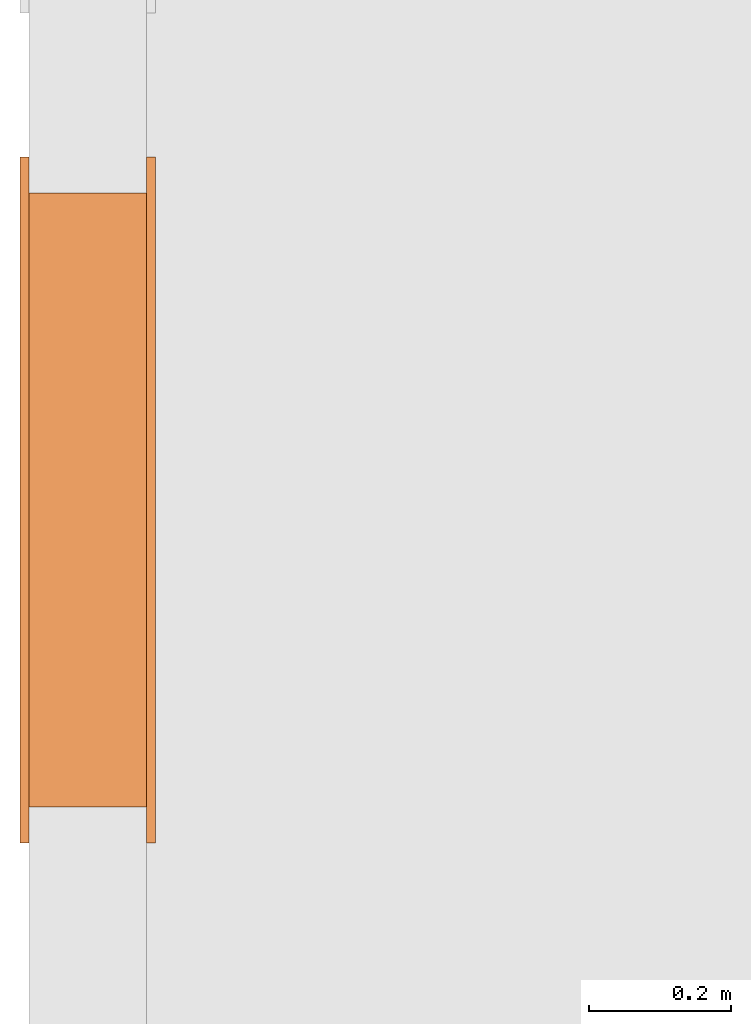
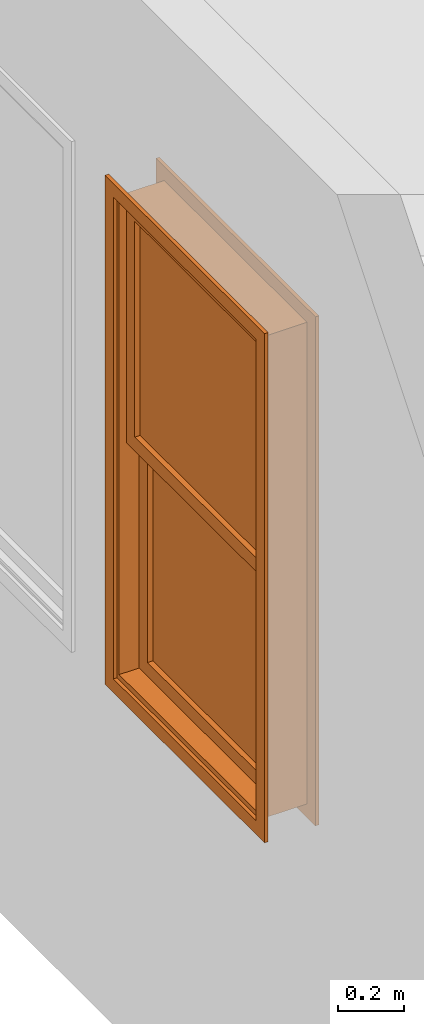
# One storey, part 59 of 103: 1 proxy.
"""IFC2X3 building model written with IfcOpenShell, lengths in inches."""

from ifc_helpers import new_model, entity, si_unit, converted_unit, derived_unit, money_unit, direction, frame, origin_with_axes, place, context, subcontext, project, spatial, faceted_brep, source, transform, mapped, type_object, element, save


model = new_model("IFC2X3")

# Units and contexts
model_context = context("Model", 3, precision=0.00039370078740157, world=origin_with_axes(), true_north=direction((0.0, 1.0)))
plan_context = context("Plan", 3, precision=0.00039370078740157, world=origin_with_axes(), true_north=direction((0.0, 1.0)))
body_context = subcontext(model_context, "Body", "Model", "MODEL_VIEW")
ifc_project = project(units=[converted_unit("LENGTHUNIT", "INCH", entity("IfcPositiveLengthMeasure", 0.0254), si_unit("LENGTHUNIT", "METRE"), dimensions=[1, 0, 0, 0, 0, 0, 0]), converted_unit("AREAUNIT", "SQUARE_FOOT", entity("IfcPositiveLengthMeasure", 0.09290304), si_unit("AREAUNIT", "SQUARE_METRE"), dimensions=[2, 0, 0, 0, 0, 0, 0]), si_unit("PLANEANGLEUNIT", "RADIAN"), si_unit("SOLIDANGLEUNIT", "STERADIAN"), money_unit("USD"), converted_unit("TIMEUNIT", "Year", entity("IfcTimeMeasure", 31557600.0), si_unit("TIMEUNIT", "SECOND"), dimensions=[0, 0, 1, 0, 0, 0, 0]), si_unit("MASSUNIT", "GRAM", prefix="KILO"), si_unit("THERMODYNAMICTEMPERATUREUNIT", "DEGREE_CELSIUS"), si_unit("LUMINOUSINTENSITYUNIT", "LUMEN"), si_unit("ENERGYUNIT", "JOULE", prefix="MEGA"), derived_unit("SPECIFICHEATCAPACITYUNIT", [(si_unit("ENERGYUNIT", "JOULE"), 1), (si_unit("MASSUNIT", "GRAM", prefix="KILO"), -1), (si_unit("THERMODYNAMICTEMPERATUREUNIT", "KELVIN"), -1)])], contexts=[model_context, plan_context])

# Site, building, storey
site_placement = place(None, origin_with_axes())
site = spatial("IfcSite", under=ifc_project, at=site_placement, Name="Site", CompositionType="ELEMENT")
building_placement = place(site_placement, origin_with_axes())
building = spatial("IfcBuilding", under=site, at=building_placement, Name="Building", CompositionType="ELEMENT")
storey_placement = place(building_placement, frame((0.0, 0.0, 127.9999999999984), z_axis=(0.0, 0.0, 1.0), x_axis=(1.0, 0.0, 0.0)))
storey = spatial("IfcBuildingStorey", under=building, at=storey_placement, Name="Second Floor", CompositionType="ELEMENT", Elevation=128.0)

# Proxy
building_element_proxy_type = type_object("IfcBuildingElementProxyType", Name="W Double Hung", PredefinedType="NOTDEFINED")
shared_shape = source(origin_with_axes(), body_context, "Body", "Brep", [
    faceted_brep([(16.99999999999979, 0.0, 0.0), (-16.99999999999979, 0.0, 0.0), (-16.99999999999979, 1.999999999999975, 0.0), (16.99999999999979, 1.999999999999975, 0.0), (16.99999999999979, 0.0, 69.99999999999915), (-16.99999999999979, 0.0, 69.99999999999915), (16.4999999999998, 0.0, 0.4999999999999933), (-16.4999999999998, 0.0, 0.4999999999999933), (-16.4999999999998, 0.0, 69.49999999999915), (16.4999999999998, 0.0, 69.49999999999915), (-16.99999999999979, 1.999999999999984, 69.99999999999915), (16.99999999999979, 1.999999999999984, 69.99999999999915), (16.4999999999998, 1.999999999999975, 0.4999999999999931), (16.4999999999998, 1.999999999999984, 69.49999999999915), (-16.4999999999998, 1.999999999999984, 69.49999999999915), (-16.4999999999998, 1.999999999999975, 0.4999999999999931)], [[[0, 1, 2, 3]], [[0, 4, 5, 1], [6, 7, 8, 9]], [[1, 5, 10, 2]], [[3, 2, 10, 11], [12, 13, 14, 15]], [[4, 0, 3, 11]], [[5, 4, 11, 10]], [[7, 6, 12, 15]], [[8, 7, 15, 14]], [[9, 8, 14, 13]], [[6, 9, 13, 12]]]),
    faceted_brep([(18.99999999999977, 2.499999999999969, -1.999999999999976), (18.99999999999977, 1.999999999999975, -1.999999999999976), (16.99999999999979, 1.999999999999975, 0.0), (16.99999999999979, 2.499999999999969, 0.0), (18.99999999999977, 2.499999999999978, 71.99999999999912), (18.99999999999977, 1.999999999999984, 71.99999999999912), (16.99999999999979, 1.999999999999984, 69.99999999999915), (16.99999999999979, 2.499999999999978, 69.99999999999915)], [[[0, 1, 2, 3]], [[4, 5, 1, 0]], [[1, 5, 6, 2]], [[3, 2, 6, 7]], [[0, 3, 7, 4]], [[7, 6, 5, 4]]]),
    faceted_brep([(-18.99999999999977, 2.499999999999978, 71.99999999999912), (-18.99999999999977, 1.999999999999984, 71.99999999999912), (-16.99999999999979, 1.999999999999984, 69.99999999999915), (-16.99999999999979, 2.499999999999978, 69.99999999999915), (-18.99999999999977, 2.499999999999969, -1.999999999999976), (-18.99999999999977, 1.999999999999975, -1.999999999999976), (-16.99999999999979, 1.999999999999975, 0.0), (-16.99999999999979, 2.499999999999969, 0.0)], [[[0, 1, 2, 3]], [[4, 5, 1, 0]], [[1, 5, 6, 2]], [[3, 2, 6, 7]], [[0, 3, 7, 4]], [[7, 6, 5, 4]]]),
    faceted_brep([(-18.99999999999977, 2.499999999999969, -1.999999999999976), (-18.99999999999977, 1.999999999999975, -1.999999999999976), (-16.99999999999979, 1.999999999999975, 0.0), (-16.99999999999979, 2.499999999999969, 0.0), (18.99999999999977, 2.499999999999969, -1.999999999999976), (18.99999999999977, 1.999999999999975, -1.999999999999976), (16.99999999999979, 1.999999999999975, 0.0), (16.99999999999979, 2.499999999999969, 0.0)], [[[0, 1, 2, 3]], [[4, 5, 1, 0]], [[1, 5, 6, 2]], [[3, 2, 6, 7]], [[0, 3, 7, 4]], [[7, 6, 5, 4]]]),
    faceted_brep([(18.99999999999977, 2.499999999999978, 71.99999999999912), (18.99999999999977, 1.999999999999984, 71.99999999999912), (16.99999999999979, 1.999999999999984, 69.99999999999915), (16.99999999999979, 2.499999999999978, 69.99999999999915), (-18.99999999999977, 2.499999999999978, 71.99999999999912), (-18.99999999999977, 1.999999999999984, 71.99999999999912), (-16.99999999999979, 1.999999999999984, 69.99999999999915), (-16.99999999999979, 2.499999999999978, 69.99999999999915)], [[[0, 1, 2, 3]], [[4, 5, 1, 0]], [[1, 5, 6, 2]], [[3, 2, 6, 7]], [[0, 3, 7, 4]], [[7, 6, 5, 4]]]),
    faceted_brep([(18.99999999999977, -4.999999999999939, -1.999999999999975), (16.99999999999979, -4.999999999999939, 0.0), (16.99999999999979, -4.499999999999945, 0.0), (18.99999999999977, -4.499999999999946, -1.999999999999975), (18.99999999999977, -4.99999999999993, 71.99999999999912), (16.99999999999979, -4.99999999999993, 69.99999999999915), (16.99999999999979, -4.499999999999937, 69.99999999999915), (18.99999999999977, -4.499999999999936, 71.99999999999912)], [[[0, 1, 2, 3]], [[0, 4, 5, 1]], [[1, 5, 6, 2]], [[3, 2, 6, 7]], [[4, 0, 3, 7]], [[5, 4, 7, 6]]]),
    faceted_brep([(-18.99999999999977, -4.99999999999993, 71.99999999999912), (-16.99999999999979, -4.99999999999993, 69.99999999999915), (-16.99999999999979, -4.499999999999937, 69.99999999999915), (-18.99999999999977, -4.499999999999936, 71.99999999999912), (-18.99999999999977, -4.999999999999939, -1.999999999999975), (-16.99999999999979, -4.999999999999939, 0.0), (-16.99999999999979, -4.499999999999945, 0.0), (-18.99999999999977, -4.499999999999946, -1.999999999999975)], [[[0, 1, 2, 3]], [[0, 4, 5, 1]], [[1, 5, 6, 2]], [[3, 2, 6, 7]], [[4, 0, 3, 7]], [[5, 4, 7, 6]]]),
    faceted_brep([(-18.99999999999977, -4.999999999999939, -1.999999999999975), (-16.99999999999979, -4.999999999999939, 0.0), (-16.99999999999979, -4.499999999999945, 0.0), (-18.99999999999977, -4.499999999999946, -1.999999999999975), (18.99999999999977, -4.999999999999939, -1.999999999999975), (16.99999999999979, -4.999999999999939, 0.0), (16.99999999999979, -4.499999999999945, 0.0), (18.99999999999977, -4.499999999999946, -1.999999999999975)], [[[0, 1, 2, 3]], [[0, 4, 5, 1]], [[1, 5, 6, 2]], [[3, 2, 6, 7]], [[4, 0, 3, 7]], [[5, 4, 7, 6]]]),
    faceted_brep([(18.99999999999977, -4.99999999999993, 71.99999999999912), (16.99999999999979, -4.99999999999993, 69.99999999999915), (16.99999999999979, -4.499999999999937, 69.99999999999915), (18.99999999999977, -4.499999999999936, 71.99999999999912), (-18.99999999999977, -4.99999999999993, 71.99999999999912), (-16.99999999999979, -4.99999999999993, 69.99999999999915), (-16.99999999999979, -4.499999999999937, 69.99999999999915), (-18.99999999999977, -4.499999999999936, 71.99999999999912)], [[[0, 1, 2, 3]], [[0, 4, 5, 1]], [[1, 5, 6, 2]], [[3, 2, 6, 7]], [[4, 0, 3, 7]], [[5, 4, 7, 6]]]),
    faceted_brep([(16.5003937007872, -4.499999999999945, 0.7539370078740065), (16.99999999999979, -4.499999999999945, 0.7539370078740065), (16.99999999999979, -4.499999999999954, 69.49606299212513), (16.5003937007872, -4.499999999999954, 69.49606299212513), (16.5003937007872, 0.0, 0.7539370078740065), (16.99999999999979, 0.0, 0.7539370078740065), (16.99999999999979, 0.0, 69.49606299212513), (16.5003937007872, 0.0, 69.49606299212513)], [[[0, 1, 2, 3]], [[4, 5, 1, 0]], [[6, 2, 1, 5]], [[3, 2, 6, 7]], [[7, 4, 0, 3]], [[7, 6, 5, 4]]]),
    faceted_brep([(-16.5003937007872, 0.0, 69.49606299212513), (-16.99999999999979, 0.0, 69.49606299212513), (-16.99999999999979, -4.499999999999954, 69.49606299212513), (-16.5003937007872, -4.499999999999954, 69.49606299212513), (-16.5003937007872, 0.0, 0.7539370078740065), (-16.99999999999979, 0.0, 0.7539370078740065), (-16.99999999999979, -4.499999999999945, 0.7539370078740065), (-16.5003937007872, -4.499999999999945, 0.7539370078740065)], [[[0, 1, 2, 3]], [[4, 5, 1, 0]], [[5, 6, 2, 1]], [[3, 2, 6, 7]], [[7, 4, 0, 3]], [[7, 6, 5, 4]]]),
    faceted_brep([(-16.5003937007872, 0.0, 0.7539370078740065), (-16.99999999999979, 0.0, 0.7539370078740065), (-16.99999999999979, -4.499999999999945, 0.7539370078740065), (-16.5003937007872, -4.499999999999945, 0.7539370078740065), (-16.5003937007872, 0.0, 0.7496062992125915), (16.5003937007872, 0.0, 0.7496062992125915), (16.5003937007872, 0.0, 0.7539370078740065), (16.99999999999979, 0.0, 0.7539370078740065), (16.99999999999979, 0.0, 0.0), (-16.99999999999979, 0.0, 0.0), (-16.99999999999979, -4.499999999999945, 0.0), (16.5003937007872, -4.499999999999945, 0.7496062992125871), (-16.5003937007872, -4.499999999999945, 0.7496062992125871), (16.99999999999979, -4.499999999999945, 0.0), (16.99999999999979, -4.499999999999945, 0.7539370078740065), (16.5003937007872, -4.499999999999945, 0.7539370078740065)], [[[0, 1, 2, 3]], [[4, 5, 6, 7, 8, 9, 1, 0]], [[9, 10, 2, 1]], [[11, 12, 3, 2, 10, 13, 14, 15]], [[12, 4, 0, 3]], [[11, 5, 4, 12]], [[6, 5, 11, 15]], [[15, 14, 7, 6]], [[7, 14, 13, 8]], [[8, 13, 10, 9]]]),
    faceted_brep([(16.5003937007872, -4.499999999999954, 69.49606299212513), (16.99999999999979, -4.499999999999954, 69.49606299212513), (16.99999999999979, -4.499999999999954, 69.99999999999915), (-16.99999999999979, -4.499999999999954, 69.99999999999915), (-16.99999999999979, -4.499999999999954, 69.49606299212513), (-16.5003937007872, -4.499999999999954, 69.49606299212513), (-16.5003937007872, -4.499999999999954, 69.50039370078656), (16.5003937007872, -4.499999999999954, 69.50039370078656), (16.5003937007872, 0.0, 69.49606299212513), (16.99999999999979, 0.0, 69.49606299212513), (16.99999999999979, 0.0, 69.99999999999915), (-16.99999999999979, 0.0, 69.99999999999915), (-16.99999999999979, 0.0, 69.49606299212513), (-16.5003937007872, 0.0, 69.49606299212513), (-16.5003937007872, 0.0, 69.50039370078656), (16.5003937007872, 0.0, 69.50039370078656)], [[[0, 1, 2, 3, 4, 5, 6, 7]], [[8, 9, 1, 0]], [[10, 2, 1, 9]], [[11, 3, 2, 10]], [[12, 4, 3, 11]], [[5, 4, 12, 13]], [[5, 13, 14, 6]], [[6, 14, 15, 7]], [[7, 15, 8, 0]], [[15, 14, 13, 12, 11, 10, 9, 8]]]),
    faceted_brep([(14.49999999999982, 0.0, 2.749999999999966), (14.49999999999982, -0.8749999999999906, 2.749999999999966), (14.49999999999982, -0.8749999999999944, 34.12499999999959), (14.49999999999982, 0.0, 34.12499999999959), (16.4999999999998, 0.0, 2.749999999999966), (16.4999999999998, -0.8749999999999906, 2.749999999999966), (16.4999999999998, -0.8749999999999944, 34.12499999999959), (16.4999999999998, 0.0, 34.12499999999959)], [[[0, 1, 2, 3]], [[4, 5, 1, 0]], [[1, 5, 6, 2]], [[3, 2, 6, 7]], [[0, 3, 7, 4]], [[7, 6, 5, 4]]]),
    faceted_brep([(-16.4999999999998, 0.0, 2.749999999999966), (-16.4999999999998, -0.8749999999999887, 2.749999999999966), (-16.4999999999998, -0.8749999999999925, 34.12499999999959), (-16.4999999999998, 0.0, 34.12499999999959), (-14.49999999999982, 0.0, 2.749999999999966), (-14.49999999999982, -0.8749999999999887, 2.749999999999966), (-14.49999999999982, -0.8749999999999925, 34.12499999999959), (-14.49999999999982, 0.0, 34.12499999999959)], [[[0, 1, 2, 3]], [[4, 5, 1, 0]], [[1, 5, 6, 2]], [[3, 2, 6, 7]], [[0, 3, 7, 4]], [[7, 6, 5, 4]]]),
    faceted_brep([(-16.4999999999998, 0.0, 0.749999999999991), (-16.4999999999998, -0.8749999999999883, 0.7499999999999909), (-16.4999999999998, -0.8749999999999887, 2.749999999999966), (-16.4999999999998, 0.0, 2.749999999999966), (16.4999999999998, 0.0, 0.749999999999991), (16.4999999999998, -0.8749999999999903, 0.7499999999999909), (16.4999999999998, -0.8749999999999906, 2.749999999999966), (14.49999999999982, -0.8749999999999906, 2.749999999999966), (0.9999999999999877, -0.8749999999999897, 2.749999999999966), (-0.9999999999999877, -0.8749999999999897, 2.749999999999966), (-14.49999999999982, -0.8749999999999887, 2.749999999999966), (-14.49999999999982, 0.0, 2.749999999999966), (-0.9999999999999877, 0.0, 2.749999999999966), (0.9999999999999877, 0.0, 2.749999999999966), (14.49999999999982, 0.0, 2.749999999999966), (16.4999999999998, 0.0, 2.749999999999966)], [[[0, 1, 2, 3]], [[4, 5, 1, 0]], [[1, 5, 6, 7, 8, 9, 10, 2]], [[3, 2, 10, 11]], [[0, 3, 11, 12, 13, 14, 15, 4]], [[15, 6, 5, 4]], [[14, 7, 6, 15]], [[13, 8, 7, 14]], [[12, 9, 8, 13]], [[11, 10, 9, 12]]]),
    faceted_brep([(16.4999999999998, 0.0, 36.12499999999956), (16.4999999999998, -0.8749999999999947, 36.12499999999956), (16.4999999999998, -0.8749999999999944, 34.12499999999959), (16.4999999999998, 0.0, 34.12499999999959), (-16.4999999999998, 0.0, 36.12499999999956), (-16.4999999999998, -0.8749999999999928, 36.12499999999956), (-16.4999999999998, -0.8749999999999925, 34.12499999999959), (-14.49999999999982, -0.8749999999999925, 34.12499999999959), (-0.9999999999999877, -0.8749999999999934, 34.12499999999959), (0.9999999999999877, -0.8749999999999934, 34.12499999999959), (14.49999999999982, -0.8749999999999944, 34.12499999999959), (14.49999999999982, 0.0, 34.12499999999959), (0.9999999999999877, 0.0, 34.12499999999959), (-0.9999999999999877, 0.0, 34.12499999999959), (-14.49999999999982, 0.0, 34.12499999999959), (-16.4999999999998, 0.0, 34.12499999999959)], [[[0, 1, 2, 3]], [[4, 5, 1, 0]], [[1, 5, 6, 7, 8, 9, 10, 2]], [[3, 2, 10, 11]], [[0, 3, 11, 12, 13, 14, 15, 4]], [[15, 6, 5, 4]], [[14, 7, 6, 15]], [[13, 8, 7, 14]], [[12, 9, 8, 13]], [[11, 10, 9, 12]]]),
    faceted_brep([(14.49999999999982, -0.8749999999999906, 2.749999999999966), (14.49999999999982, -1.74999999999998, 2.749999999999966), (14.49999999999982, -1.749999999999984, 34.12499999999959), (14.49999999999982, -0.8749999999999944, 34.12499999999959), (16.4999999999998, -0.8749999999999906, 2.749999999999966), (16.4999999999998, -1.74999999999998, 2.749999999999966), (16.4999999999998, -1.749999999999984, 34.12499999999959), (16.4999999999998, -0.8749999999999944, 34.12499999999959)], [[[0, 1, 2, 3]], [[4, 5, 1, 0]], [[1, 5, 6, 2]], [[3, 2, 6, 7]], [[0, 3, 7, 4]], [[7, 6, 5, 4]]]),
    faceted_brep([(-16.4999999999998, -0.8749999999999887, 2.749999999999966), (-16.4999999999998, -1.749999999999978, 2.749999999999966), (-16.4999999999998, -1.749999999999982, 34.12499999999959), (-16.4999999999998, -0.8749999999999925, 34.12499999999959), (-14.49999999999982, -0.8749999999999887, 2.749999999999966), (-14.49999999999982, -1.749999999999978, 2.749999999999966), (-14.49999999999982, -1.749999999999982, 34.12499999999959), (-14.49999999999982, -0.8749999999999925, 34.12499999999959)], [[[0, 1, 2, 3]], [[4, 5, 1, 0]], [[1, 5, 6, 2]], [[3, 2, 6, 7]], [[0, 3, 7, 4]], [[7, 6, 5, 4]]]),
    faceted_brep([(-16.4999999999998, -0.8749999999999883, 0.7499999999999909), (-16.4999999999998, -1.749999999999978, 0.7499999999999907), (-16.4999999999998, -1.749999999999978, 2.749999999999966), (-16.4999999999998, -0.8749999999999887, 2.749999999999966), (16.4999999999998, -0.8749999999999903, 0.7499999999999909), (16.4999999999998, -1.74999999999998, 0.7499999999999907), (16.4999999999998, -1.74999999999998, 2.749999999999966), (14.49999999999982, -1.74999999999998, 2.749999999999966), (0.9999999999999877, -1.749999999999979, 2.749999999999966), (-0.9999999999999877, -1.749999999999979, 2.749999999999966), (-14.49999999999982, -1.749999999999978, 2.749999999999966), (-14.49999999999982, -0.8749999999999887, 2.749999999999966), (-0.9999999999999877, -0.8749999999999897, 2.749999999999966), (0.9999999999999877, -0.8749999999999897, 2.749999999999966), (14.49999999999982, -0.8749999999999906, 2.749999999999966), (16.4999999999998, -0.8749999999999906, 2.749999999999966)], [[[0, 1, 2, 3]], [[4, 5, 1, 0]], [[1, 5, 6, 7, 8, 9, 10, 2]], [[3, 2, 10, 11]], [[0, 3, 11, 12, 13, 14, 15, 4]], [[15, 6, 5, 4]], [[14, 7, 6, 15]], [[13, 8, 7, 14]], [[12, 9, 8, 13]], [[11, 10, 9, 12]]]),
    faceted_brep([(16.4999999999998, -0.8749999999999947, 36.12499999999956), (16.4999999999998, -1.749999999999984, 36.12499999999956), (16.4999999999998, -1.749999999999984, 34.12499999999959), (16.4999999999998, -0.8749999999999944, 34.12499999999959), (-16.4999999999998, -0.8749999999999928, 36.12499999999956), (-16.4999999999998, -1.749999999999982, 36.12499999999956), (-16.4999999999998, -1.749999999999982, 34.12499999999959), (-14.49999999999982, -1.749999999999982, 34.12499999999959), (-0.9999999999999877, -1.749999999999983, 34.12499999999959), (0.9999999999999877, -1.749999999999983, 34.12499999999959), (14.49999999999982, -1.749999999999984, 34.12499999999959), (14.49999999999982, -0.8749999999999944, 34.12499999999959), (0.9999999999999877, -0.8749999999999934, 34.12499999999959), (-0.9999999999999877, -0.8749999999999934, 34.12499999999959), (-14.49999999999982, -0.8749999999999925, 34.12499999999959), (-16.4999999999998, -0.8749999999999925, 34.12499999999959)], [[[0, 1, 2, 3]], [[4, 5, 1, 0]], [[1, 5, 6, 7, 8, 9, 10, 2]], [[3, 2, 10, 11]], [[0, 3, 11, 12, 13, 14, 15, 4]], [[15, 6, 5, 4]], [[14, 7, 6, 15]], [[13, 8, 7, 14]], [[12, 9, 8, 13]], [[11, 10, 9, 12]]]),
    faceted_brep([(14.49999999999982, -0.7499999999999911, 2.749999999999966), (14.49999999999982, -0.999999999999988, 2.749999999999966), (-14.49999999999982, -0.999999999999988, 2.749999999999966), (-14.49999999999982, -0.7499999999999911, 2.749999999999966), (14.49999999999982, -0.749999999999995, 34.12499999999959), (14.49999999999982, -0.9999999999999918, 34.12499999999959), (-14.49999999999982, -0.9999999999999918, 34.12499999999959), (-14.49999999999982, -0.749999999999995, 34.12499999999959)], [[[0, 1, 2, 3]], [[4, 5, 1, 0]], [[1, 5, 6, 2]], [[3, 2, 6, 7]], [[0, 3, 7, 4]], [[7, 6, 5, 4]]]),
    faceted_brep([(14.49999999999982, -1.749999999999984, 36.12499999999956), (14.49999999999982, -2.624999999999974, 36.12499999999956), (14.49999999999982, -2.624999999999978, 67.49999999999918), (14.49999999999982, -1.749999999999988, 67.49999999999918), (16.4999999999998, -1.749999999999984, 36.12499999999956), (16.4999999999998, -2.624999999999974, 36.12499999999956), (16.4999999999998, -2.624999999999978, 67.49999999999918), (16.4999999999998, -1.749999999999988, 67.49999999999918)], [[[0, 1, 2, 3]], [[4, 5, 1, 0]], [[1, 5, 6, 2]], [[3, 2, 6, 7]], [[0, 3, 7, 4]], [[7, 6, 5, 4]]]),
    faceted_brep([(-16.4999999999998, -1.749999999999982, 36.12499999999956), (-16.4999999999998, -2.624999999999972, 36.12499999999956), (-16.4999999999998, -2.624999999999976, 67.49999999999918), (-16.4999999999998, -1.749999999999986, 67.49999999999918), (-14.49999999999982, -1.749999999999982, 36.12499999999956), (-14.49999999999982, -2.624999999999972, 36.12499999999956), (-14.49999999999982, -2.624999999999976, 67.49999999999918), (-14.49999999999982, -1.749999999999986, 67.49999999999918)], [[[0, 1, 2, 3]], [[4, 5, 1, 0]], [[1, 5, 6, 2]], [[3, 2, 6, 7]], [[0, 3, 7, 4]], [[7, 6, 5, 4]]]),
    faceted_brep([(-16.4999999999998, -1.749999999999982, 34.12499999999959), (-16.4999999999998, -2.624999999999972, 34.12499999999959), (-16.4999999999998, -2.624999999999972, 36.12499999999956), (-16.4999999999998, -1.749999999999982, 36.12499999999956), (16.4999999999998, -1.749999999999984, 34.12499999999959), (16.4999999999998, -2.624999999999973, 34.12499999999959), (16.4999999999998, -2.624999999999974, 36.12499999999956), (14.49999999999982, -2.624999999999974, 36.12499999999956), (0.9999999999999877, -2.624999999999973, 36.12499999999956), (-0.9999999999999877, -2.624999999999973, 36.12499999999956), (-14.49999999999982, -2.624999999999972, 36.12499999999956), (-14.49999999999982, -1.749999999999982, 36.12499999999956), (-0.9999999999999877, -1.749999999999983, 36.12499999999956), (0.9999999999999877, -1.749999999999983, 36.12499999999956), (14.49999999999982, -1.749999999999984, 36.12499999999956), (16.4999999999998, -1.749999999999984, 36.12499999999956)], [[[0, 1, 2, 3]], [[4, 5, 1, 0]], [[1, 5, 6, 7, 8, 9, 10, 2]], [[3, 2, 10, 11]], [[0, 3, 11, 12, 13, 14, 15, 4]], [[15, 6, 5, 4]], [[14, 7, 6, 15]], [[13, 8, 7, 14]], [[12, 9, 8, 13]], [[11, 10, 9, 12]]]),
    faceted_brep([(16.4999999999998, -1.749999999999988, 69.49999999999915), (16.4999999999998, -2.624999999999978, 69.49999999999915), (16.4999999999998, -2.624999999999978, 67.49999999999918), (16.4999999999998, -1.749999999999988, 67.49999999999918), (-16.4999999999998, -1.749999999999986, 69.49999999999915), (-16.4999999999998, -2.624999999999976, 69.49999999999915), (-16.4999999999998, -2.624999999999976, 67.49999999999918), (-14.49999999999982, -2.624999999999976, 67.49999999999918), (-0.9999999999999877, -2.624999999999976, 67.49999999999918), (0.9999999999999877, -2.624999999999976, 67.49999999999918), (14.49999999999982, -2.624999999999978, 67.49999999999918), (14.49999999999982, -1.749999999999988, 67.49999999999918), (0.9999999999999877, -1.749999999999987, 67.49999999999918), (-0.9999999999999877, -1.749999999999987, 67.49999999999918), (-14.49999999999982, -1.749999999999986, 67.49999999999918), (-16.4999999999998, -1.749999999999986, 67.49999999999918)], [[[0, 1, 2, 3]], [[4, 5, 1, 0]], [[1, 5, 6, 7, 8, 9, 10, 2]], [[3, 2, 10, 11]], [[0, 3, 11, 12, 13, 14, 15, 4]], [[15, 6, 5, 4]], [[14, 7, 6, 15]], [[13, 8, 7, 14]], [[12, 9, 8, 13]], [[11, 10, 9, 12]]]),
    faceted_brep([(14.49999999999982, -2.624999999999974, 36.12499999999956), (14.49999999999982, -3.499999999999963, 36.12499999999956), (14.49999999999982, -3.499999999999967, 67.49999999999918), (14.49999999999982, -2.624999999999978, 67.49999999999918), (16.4999999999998, -2.624999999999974, 36.12499999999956), (16.4999999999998, -3.499999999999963, 36.12499999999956), (16.4999999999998, -3.499999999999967, 67.49999999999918), (16.4999999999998, -2.624999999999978, 67.49999999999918)], [[[0, 1, 2, 3]], [[4, 5, 1, 0]], [[1, 5, 6, 2]], [[3, 2, 6, 7]], [[0, 3, 7, 4]], [[7, 6, 5, 4]]]),
    faceted_brep([(-16.4999999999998, -2.624999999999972, 36.12499999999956), (-16.4999999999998, -3.49999999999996, 36.12499999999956), (-16.4999999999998, -3.499999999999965, 67.49999999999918), (-16.4999999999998, -2.624999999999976, 67.49999999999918), (-14.49999999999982, -2.624999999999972, 36.12499999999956), (-14.49999999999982, -3.49999999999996, 36.12499999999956), (-14.49999999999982, -3.499999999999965, 67.49999999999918), (-14.49999999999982, -2.624999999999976, 67.49999999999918)], [[[0, 1, 2, 3]], [[4, 5, 1, 0]], [[1, 5, 6, 2]], [[3, 2, 6, 7]], [[0, 3, 7, 4]], [[7, 6, 5, 4]]]),
    faceted_brep([(-16.4999999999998, -2.624999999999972, 34.12499999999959), (-16.4999999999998, -3.49999999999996, 34.12499999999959), (-16.4999999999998, -3.49999999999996, 36.12499999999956), (-16.4999999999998, -2.624999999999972, 36.12499999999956), (16.4999999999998, -2.624999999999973, 34.12499999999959), (16.4999999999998, -3.499999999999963, 34.12499999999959), (16.4999999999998, -3.499999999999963, 36.12499999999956), (14.49999999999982, -3.499999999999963, 36.12499999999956), (0.9999999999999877, -3.499999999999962, 36.12499999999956), (-0.9999999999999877, -3.499999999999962, 36.12499999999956), (-14.49999999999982, -3.49999999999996, 36.12499999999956), (-14.49999999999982, -2.624999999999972, 36.12499999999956), (-0.9999999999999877, -2.624999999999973, 36.12499999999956), (0.9999999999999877, -2.624999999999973, 36.12499999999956), (14.49999999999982, -2.624999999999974, 36.12499999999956), (16.4999999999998, -2.624999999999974, 36.12499999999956)], [[[0, 1, 2, 3]], [[4, 5, 1, 0]], [[1, 5, 6, 7, 8, 9, 10, 2]], [[3, 2, 10, 11]], [[0, 3, 11, 12, 13, 14, 15, 4]], [[15, 6, 5, 4]], [[14, 7, 6, 15]], [[13, 8, 7, 14]], [[12, 9, 8, 13]], [[11, 10, 9, 12]]]),
    faceted_brep([(16.4999999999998, -2.624999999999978, 69.49999999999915), (16.4999999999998, -3.499999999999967, 69.49999999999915), (16.4999999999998, -3.499999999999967, 67.49999999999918), (16.4999999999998, -2.624999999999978, 67.49999999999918), (-16.4999999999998, -2.624999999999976, 69.49999999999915), (-16.4999999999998, -3.499999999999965, 69.49999999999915), (-16.4999999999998, -3.499999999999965, 67.49999999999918), (-14.49999999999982, -3.499999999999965, 67.49999999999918), (-0.9999999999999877, -3.499999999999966, 67.49999999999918), (0.9999999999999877, -3.499999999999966, 67.49999999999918), (14.49999999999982, -3.499999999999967, 67.49999999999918), (14.49999999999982, -2.624999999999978, 67.49999999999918), (0.9999999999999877, -2.624999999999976, 67.49999999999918), (-0.9999999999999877, -2.624999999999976, 67.49999999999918), (-14.49999999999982, -2.624999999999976, 67.49999999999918), (-16.4999999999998, -2.624999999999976, 67.49999999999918)], [[[0, 1, 2, 3]], [[4, 5, 1, 0]], [[1, 5, 6, 7, 8, 9, 10, 2]], [[3, 2, 10, 11]], [[0, 3, 11, 12, 13, 14, 15, 4]], [[15, 6, 5, 4]], [[14, 7, 6, 15]], [[13, 8, 7, 14]], [[12, 9, 8, 13]], [[11, 10, 9, 12]]]),
    faceted_brep([(14.49999999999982, -2.499999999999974, 36.12499999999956), (14.49999999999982, -2.749999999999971, 36.12499999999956), (-14.49999999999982, -2.749999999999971, 36.12499999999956), (-14.49999999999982, -2.499999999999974, 36.12499999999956), (14.49999999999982, -2.499999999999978, 67.49999999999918), (14.49999999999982, -2.749999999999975, 67.49999999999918), (-14.49999999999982, -2.749999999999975, 67.49999999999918), (-14.49999999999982, -2.499999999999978, 67.49999999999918)], [[[0, 1, 2, 3]], [[4, 5, 1, 0]], [[1, 5, 6, 2]], [[3, 2, 6, 7]], [[0, 3, 7, 4]], [[7, 6, 5, 4]]]),
])
proxy_placement = place(storey_placement, frame((-255.7499999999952, 446.999999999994, 23.9999999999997), z_axis=(0.0, 0.0, 1.0), x_axis=(0.0, -1.0, 0.0)))
element("IfcBuildingElementProxy", 1, at=proxy_placement, inside=storey, type_object=building_element_proxy_type, Name="WD - 002", context=body_context, shape_type="MappedRepresentation", body=[
    mapped(shared_shape, transform((16.99999999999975, -1.999999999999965, 0.0))),
])

save(model, "model.ifc")
